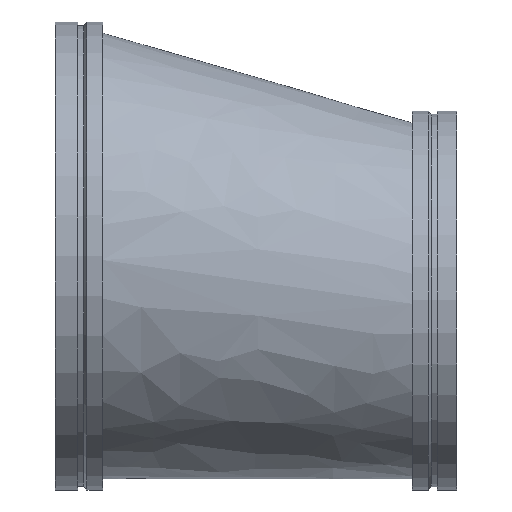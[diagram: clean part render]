
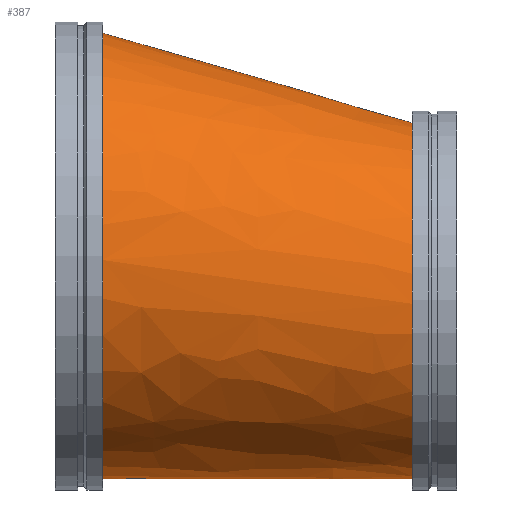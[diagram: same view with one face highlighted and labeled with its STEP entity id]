
A CAD part, top view. The second image highlights one B-rep face of the part: STEP entity #387.
In plain terms, the highlighted free-form (B-spline) face has degree [1, 2] with [2, 9] control points.
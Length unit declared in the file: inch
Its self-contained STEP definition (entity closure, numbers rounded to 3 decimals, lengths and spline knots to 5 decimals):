
#46=B_SPLINE_CURVE_WITH_KNOTS('',1,(#747,#748),.UNSPECIFIED.,.F.,.F.,(2,
2),(-1.41801,-0.00282),.UNSPECIFIED.);
#48=(
BOUNDED_SURFACE()
B_SPLINE_SURFACE(1,2,((#729,#730,#731,#732,#733,#734,#735,#736,#737),(#738,
#739,#740,#741,#742,#743,#744,#745,#746)),.UNSPECIFIED.,.F.,.T.,.F.)
B_SPLINE_SURFACE_WITH_KNOTS((2,2),(3,2,2,2,3),(-0.14127,1.52877),
(-3.14159,-1.5708,0.,1.5708,3.14159),
 .UNSPECIFIED.)
GEOMETRIC_REPRESENTATION_ITEM()
RATIONAL_B_SPLINE_SURFACE(((1.,0.707,1.,0.707,1.,
0.707,1.,0.707,1.),(1.,0.707,1.,0.707,
1.,0.707,1.,0.707,1.)))
REPRESENTATION_ITEM('')
SURFACE()
);
#98=FACE_OUTER_BOUND('',#120,.T.);
#120=EDGE_LOOP('',(#321,#322,#323,#324,#325,#326));
#129=CIRCLE('',#415,16.);
#130=CIRCLE('',#416,16.);
#153=CIRCLE('',#450,20.);
#154=CIRCLE('',#451,20.);
#166=VERTEX_POINT('',#628);
#167=VERTEX_POINT('',#629);
#190=VERTEX_POINT('',#695);
#191=VERTEX_POINT('',#696);
#203=EDGE_CURVE('',#166,#167,#129,.T.);
#204=EDGE_CURVE('',#167,#166,#130,.T.);
#235=EDGE_CURVE('',#190,#191,#153,.T.);
#236=EDGE_CURVE('',#191,#190,#154,.T.);
#243=EDGE_CURVE('',#167,#191,#46,.T.);
#321=ORIENTED_EDGE('',*,*,#203,.T.);
#322=ORIENTED_EDGE('',*,*,#243,.T.);
#323=ORIENTED_EDGE('',*,*,#236,.T.);
#324=ORIENTED_EDGE('',*,*,#235,.T.);
#325=ORIENTED_EDGE('',*,*,#243,.F.);
#326=ORIENTED_EDGE('',*,*,#204,.T.);
#387=ADVANCED_FACE('',(#98),#48,.F.);
#415=AXIS2_PLACEMENT_3D('',#630,#486,#487);
#416=AXIS2_PLACEMENT_3D('',#631,#488,#489);
#450=AXIS2_PLACEMENT_3D('',#697,#564,#565);
#451=AXIS2_PLACEMENT_3D('',#698,#566,#567);
#486=DIRECTION('center_axis',(-1.,0.,0.));
#487=DIRECTION('ref_axis',(0.,-1.,0.));
#488=DIRECTION('center_axis',(-1.,0.,0.));
#489=DIRECTION('ref_axis',(0.,-1.,0.));
#564=DIRECTION('center_axis',(1.,0.,0.));
#565=DIRECTION('ref_axis',(0.,1.,0.));
#566=DIRECTION('center_axis',(1.,0.,0.));
#567=DIRECTION('ref_axis',(0.,1.,0.));
#628=CARTESIAN_POINT('',(32.,-20.,0.));
#629=CARTESIAN_POINT('',(32.,-4.3193,15.99681));
#630=CARTESIAN_POINT('Origin',(32.,-4.,0.));
#631=CARTESIAN_POINT('Origin',(32.,-4.,0.));
#695=CARTESIAN_POINT('',(4.25,20.,0.));
#696=CARTESIAN_POINT('',(4.25,-0.39913,19.99602));
#697=CARTESIAN_POINT('Origin',(4.25,0.,0.));
#698=CARTESIAN_POINT('Origin',(4.25,0.,0.));
#729=CARTESIAN_POINT('Ctrl Pts',(1.42465,0.,
20.40319));
#730=CARTESIAN_POINT('Ctrl Pts',(-1.4007,-20.,20.40319));
#731=CARTESIAN_POINT('Ctrl Pts',(-1.4007,-20.,0.));
#732=CARTESIAN_POINT('Ctrl Pts',(-1.4007,-20.,-20.40319));
#733=CARTESIAN_POINT('Ctrl Pts',(1.42465,0.,
-20.40319));
#734=CARTESIAN_POINT('Ctrl Pts',(4.25,20.,-20.40319));
#735=CARTESIAN_POINT('Ctrl Pts',(4.25,20.,0.));
#736=CARTESIAN_POINT('Ctrl Pts',(4.25,20.,20.40319));
#737=CARTESIAN_POINT('Ctrl Pts',(1.42465,0.,
20.40319));
#738=CARTESIAN_POINT('Ctrl Pts',(34.17183,-4.62611,15.68382));
#739=CARTESIAN_POINT('Ctrl Pts',(32.,-20.,15.68382));
#740=CARTESIAN_POINT('Ctrl Pts',(32.,-20.,0.));
#741=CARTESIAN_POINT('Ctrl Pts',(32.,-20.,-15.68382));
#742=CARTESIAN_POINT('Ctrl Pts',(34.17183,-4.62611,-15.68382));
#743=CARTESIAN_POINT('Ctrl Pts',(36.34366,10.74777,-15.68382));
#744=CARTESIAN_POINT('Ctrl Pts',(36.34366,10.74777,0.));
#745=CARTESIAN_POINT('Ctrl Pts',(36.34366,10.74777,15.68382));
#746=CARTESIAN_POINT('Ctrl Pts',(34.17183,-4.62611,15.68382));
#747=CARTESIAN_POINT('Ctrl Pts',(32.,-4.3193,15.99681));
#748=CARTESIAN_POINT('Ctrl Pts',(4.25,-0.39913,19.99602));
